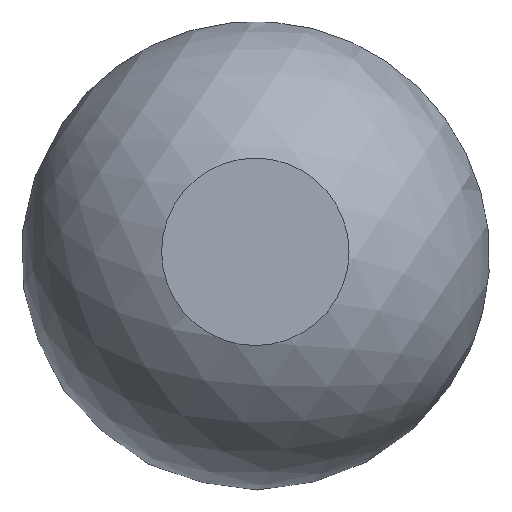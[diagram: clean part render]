
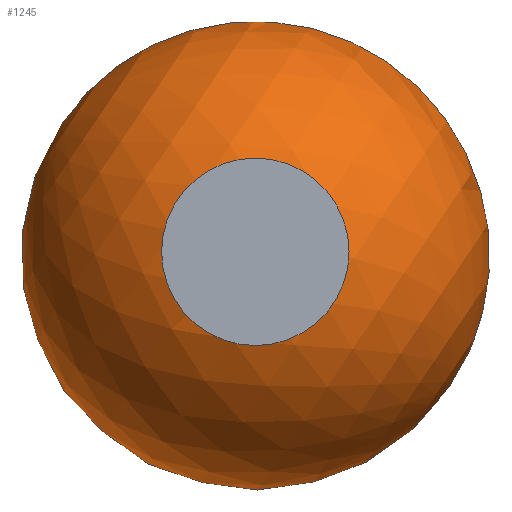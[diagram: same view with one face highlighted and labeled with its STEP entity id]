
A CAD part, top view. The second image highlights one B-rep face of the part: STEP entity #1245.
In plain terms, the highlighted spherical face has radius 150 mm.
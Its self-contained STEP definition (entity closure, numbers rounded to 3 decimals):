
#45=FACE_BOUND('',#358,.T.);
#87=SPHERICAL_SURFACE('',#1398,150.);
#254=FACE_OUTER_BOUND('',#357,.T.);
#357=EDGE_LOOP('',(#886,#887));
#358=EDGE_LOOP('',(#888));
#473=CIRCLE('',#1395,14.494);
#475=CIRCLE('',#1399,150.);
#577=VERTEX_POINT('',#2098);
#580=VERTEX_POINT('',#2106);
#581=VERTEX_POINT('',#2107);
#693=EDGE_CURVE('',#577,#577,#473,.T.);
#695=EDGE_CURVE('',#580,#581,#475,.T.);
#886=ORIENTED_EDGE('',*,*,#695,.T.);
#887=ORIENTED_EDGE('',*,*,#695,.F.);
#888=ORIENTED_EDGE('',*,*,#693,.F.);
#1245=ADVANCED_FACE('',(#254,#45),#87,.T.);
#1395=AXIS2_PLACEMENT_3D('',#2100,#1633,#1634);
#1398=AXIS2_PLACEMENT_3D('',#2105,#1639,#1640);
#1399=AXIS2_PLACEMENT_3D('',#2108,#1641,#1642);
#1633=DIRECTION('center_axis',(0.,0.,
1.));
#1634=DIRECTION('ref_axis',(-0.56,-0.828,0.));
#1639=DIRECTION('center_axis',(-0.828,0.56,0.));
#1640=DIRECTION('ref_axis',(-0.56,-0.828,0.));
#1641=DIRECTION('center_axis',(0.,0.,
-1.));
#1642=DIRECTION('ref_axis',(0.56,0.828,0.));
#2098=CARTESIAN_POINT('',(12.008,-8.117,299.298));
#2100=CARTESIAN_POINT('Origin',(0.,0.,
299.298));
#2105=CARTESIAN_POINT('Origin',(0.,0.,
150.));
#2106=CARTESIAN_POINT('',(-124.273,84.002,150.));
#2107=CARTESIAN_POINT('',(124.273,-84.002,150.));
#2108=CARTESIAN_POINT('Origin',(0.,0.,
150.));
